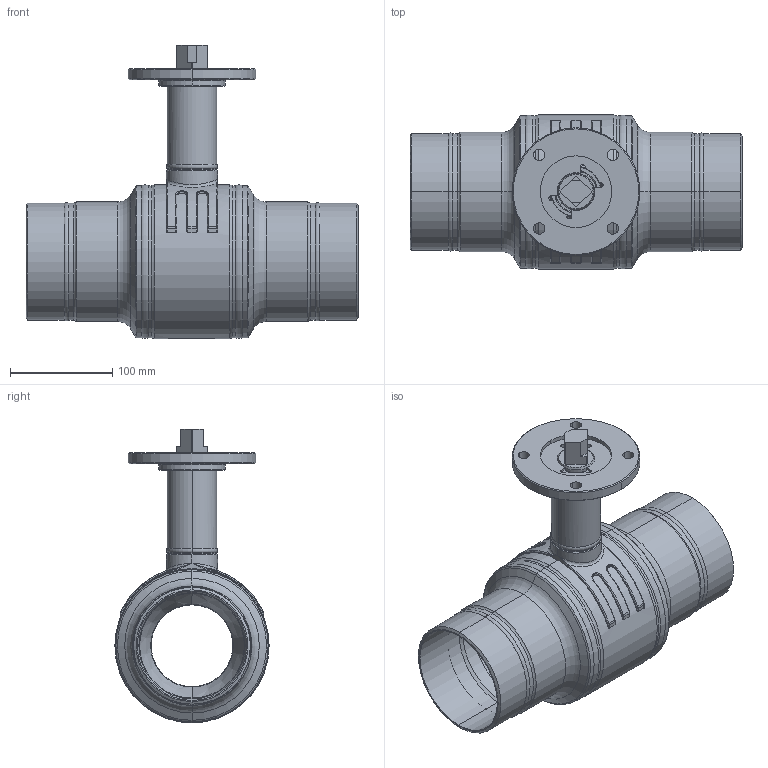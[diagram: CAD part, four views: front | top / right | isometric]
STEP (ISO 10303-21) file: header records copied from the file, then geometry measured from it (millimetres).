
FILE_DESCRIPTION((''),'2;1');
FILE_NAME('KHMO-S-R-H-100R080P04_SW0001','2025-04-22T14:37:47',('jeitlers'),('KLINGER'),'CREO PARAMETRIC BY PTC INC, 2023014','CREO PARAMETRIC BY PTC INC, 2023014','');
FILE_SCHEMA(('CONFIG_CONTROL_DESIGN'));
Length unit declared in the file: millimetre
Products named in the file (1): KHMO-S-R-H-100R080P04_SW0001
Bounding box: 325 x 151 x 287.5 mm (x, y, z)
Volume: 1612201 mm3; surface area: 416578.5 mm2
Topology: 3 solids, 3 shells, 469 faces, 1093 edges, 654 vertices
Faces by surface type: cylinder 162, torus 106, cone 90, plane 83, bspline 28
Entity records: 20374 total; most frequent: CARTESIAN_POINT 9373, DIRECTION 2531, ORIENTED_EDGE 2186, EDGE_CURVE 1093, AXIS2_PLACEMENT_3D 1079, VERTEX_POINT 654, CIRCLE 638, EDGE_LOOP 511
